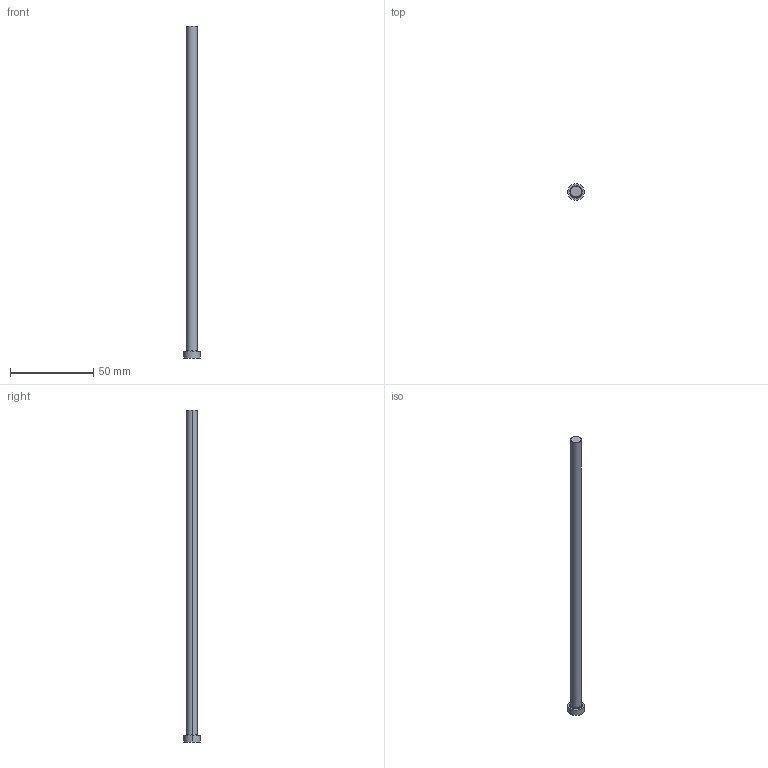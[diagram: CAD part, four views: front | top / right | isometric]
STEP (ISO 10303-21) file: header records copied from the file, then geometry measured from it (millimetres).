
FILE_DESCRIPTION (( 'STEP AP214' ), '1' );
FILE_NAME ('EPHE-B6.5-200.step', '2024-04-11T21:29:35', ( '' ), ( '' ), 'SwSTEP 2.0', 'SolidWorks 2017', '' );
FILE_SCHEMA (( 'AUTOMOTIVE_DESIGN' ));
Length unit declared in the file: millimetre
Products named in the file (1): EPHE-B6.5-200
Bounding box: 10 x 10 x 200 mm (x, y, z)
Volume: 6819.2 mm3; surface area: 4280.9 mm2
Topology: 1 solids, 1 shells, 9 faces, 16 edges, 10 vertices
Faces by surface type: cylinder 4, plane 3, torus 2
Entity records: 260 total; most frequent: DIRECTION 48, CARTESIAN_POINT 36, ORIENTED_EDGE 32, AXIS2_PLACEMENT_3D 22, EDGE_CURVE 16, CIRCLE 12, VERTEX_POINT 10, EDGE_LOOP 10
